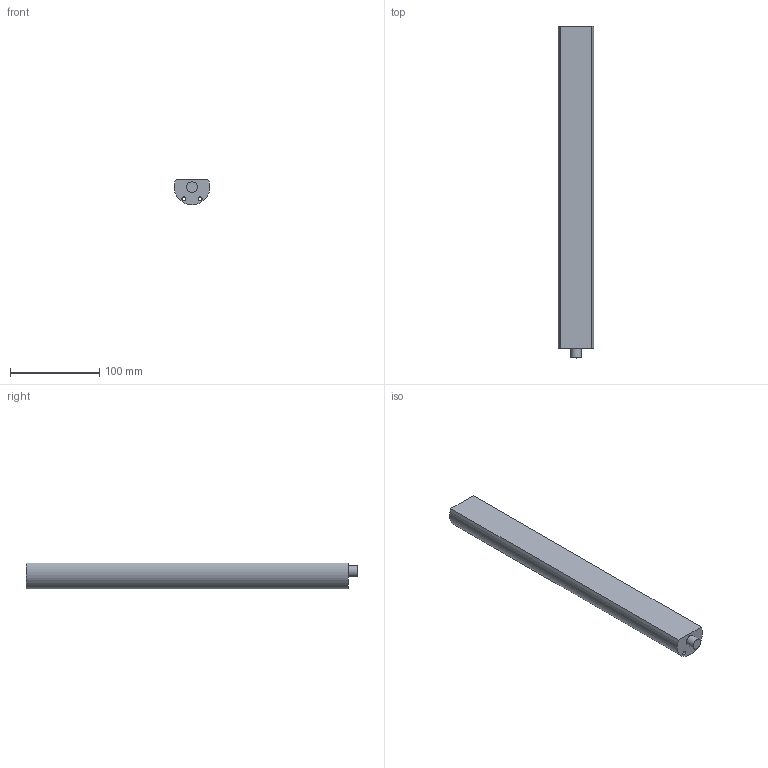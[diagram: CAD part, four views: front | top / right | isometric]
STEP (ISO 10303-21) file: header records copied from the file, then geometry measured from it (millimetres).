
FILE_DESCRIPTION(('FreeCAD Model'),'2;1');
FILE_NAME('Open CASCADE Shape Model','2024-04-10T10:00:49',(''),(''), 'Open CASCADE STEP processor 7.6','FreeCAD','Unknown');
FILE_SCHEMA(('AUTOMOTIVE_DESIGN { 1 0 10303 214 1 1 1 1 }'));
Length unit declared in the file: millimetre
Products named in the file (1): Körper
Bounding box: 39.96 x 372 x 29 mm (x, y, z)
Volume: 342014.1 mm3; surface area: 54827.4 mm2
Topology: 1 solids, 1 shells, 8 faces, 15 edges, 10 vertices
Faces by surface type: cylinder 4, plane 4
Full cylindrical faces by diameter (mm): 4.5 x2, 12 x1
Entity records: 237 total; most frequent: DIRECTION 41, CARTESIAN_POINT 34, ORIENTED_EDGE 30, AXIS2_PLACEMENT_3D 17, EDGE_CURVE 15, FACE_BOUND 13, EDGE_LOOP 13, VERTEX_POINT 10
